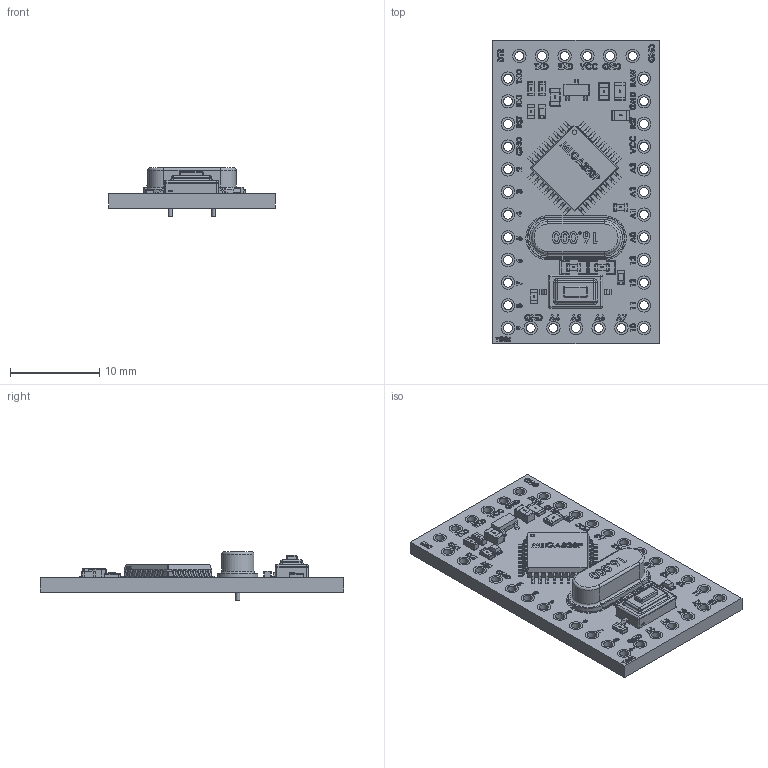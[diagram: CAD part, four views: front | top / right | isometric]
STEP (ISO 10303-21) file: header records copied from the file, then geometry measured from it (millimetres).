
FILE_DESCRIPTION (( 'STEP AP214' ),'1' );
FILE_NAME ('','2020-10-04T23:32:26',( '' ),( '' ),'','','' );
FILE_SCHEMA (( 'AUTOMOTIVE_DESIGN' ));
Products named in the file (1): YAAJ_Module_Arduino_ProMini_NanHe_No_Headers_cp
Bounding box: 18.6 x 34 x 5.4 mm (x, y, z)
Volume: 1196.2 mm3; surface area: 2203.9 mm2
Topology: 167 solids, 167 shells, 5095 faces, 38625 edges, 59026 vertices
Faces by surface type: plane 2530, bspline 1973, cylinder 516, sphere 68, torus 8
Full cylindrical faces by diameter (mm): 0.15 x2, 0.43 x2, 0.5 x1, 0.998 x30, 0.999 x5, 1.5 x70, 2.3 x2
Entity records: 603552 total; most frequent: CARTESIAN_POINT 342624, DIRECTION 36217, ORIENTED_EDGE 26422, GEOMETRIC_CURVE_SET 25346, TRIMMED_CURVE 25278, LINE 23395, VECTOR 23395, EDGE_CURVE 13211
